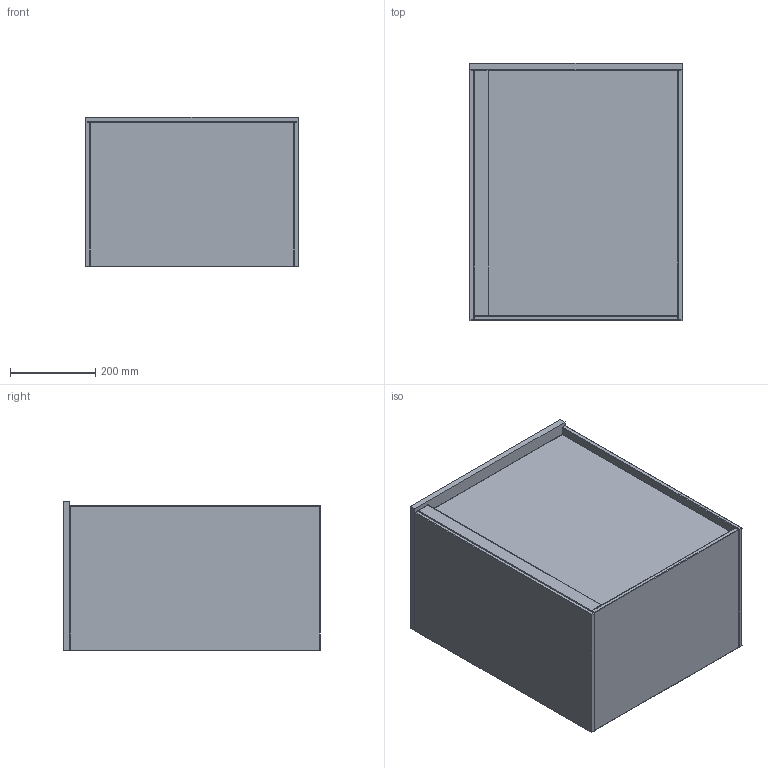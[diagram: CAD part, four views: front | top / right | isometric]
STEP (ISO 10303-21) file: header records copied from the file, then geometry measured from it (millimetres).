
FILE_DESCRIPTION (( 'STEP AP203' ), '1' );
FILE_NAME ('H2-50-S-Shell-drawing.STEP', '2024-10-23T07:54:40', ( '' ), ( '' ), 'SwSTEP 2.0', 'SolidWorks 2024', '' );
FILE_SCHEMA (( 'CONFIG_CONTROL_DESIGN' ));
Length unit declared in the file: millimetre
Products named in the file (6): H2-50-S-Shell-drawing; Botten-480x340x10; Lucka-577x480x10; Handtag-577x35x20; Sida-588x340x10; SKiva-350x500x15
Assembly tree (6 placements, depth 2):
  H2-50-S-Shell-drawing
    Botten-480x340x10
    Sida-588x340x10  x2
    SKiva-350x500x15
    Handtag-577x35x20
    Lucka-577x480x10
Bounding box: 500 x 603 x 350 mm (x, y, z)
Volume: 11367292.7 mm3; surface area: 2182587.9 mm2
Topology: 6 solids, 6 shells, 136 faces, 294 edges, 130 vertices
Faces by surface type: cylinder 60, sphere 40, plane 36
Entity records: 3300 total; most frequent: DIRECTION 538, CARTESIAN_POINT 427, ORIENTED_EDGE 408, AXIS2_PLACEMENT_3D 215, EDGE_CURVE 204, EDGE_LOOP 110, FACE_OUTER_BOUND 110, ADVANCED_FACE 110
